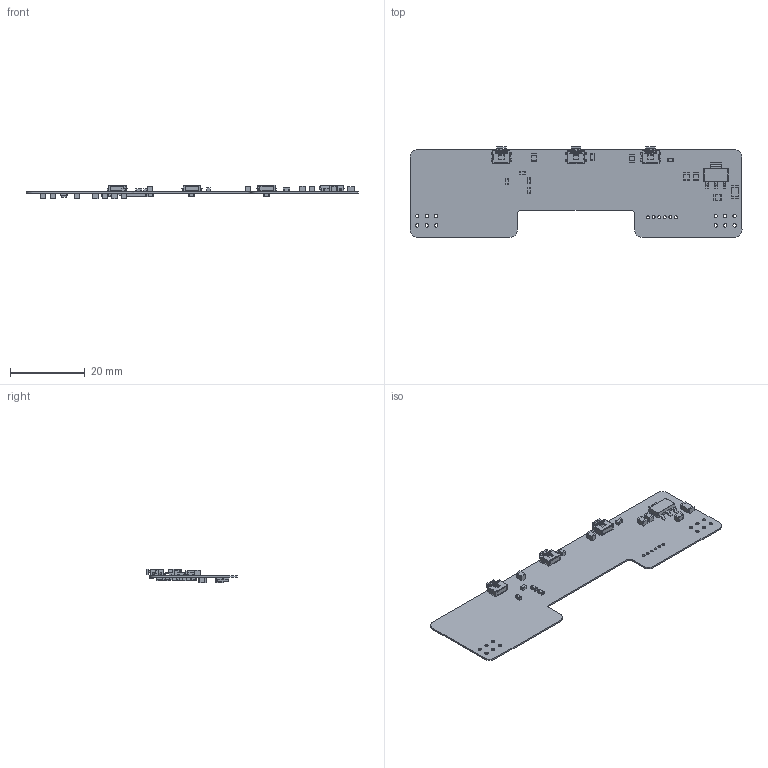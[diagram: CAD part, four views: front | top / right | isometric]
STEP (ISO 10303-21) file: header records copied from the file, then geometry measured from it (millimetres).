
FILE_DESCRIPTION(('Open CASCADE Model'),'2;1');
FILE_NAME('Open CASCADE Shape Model','2018-12-25T10:22:59',('Author'),( 'Open CASCADE'),'Open CASCADE STEP processor 6.5','Open CASCADE 6.5' ,'Unknown');
FILE_SCHEMA(('AUTOMOTIVE_DESIGN { 1 0 10303 214 1 1 1 1 }'));
Length unit declared in the file: millimetre
Products named in the file (73): PCB; Board; U3; SW3DPS-SOT-223-DEFAULT; F2; 670418976; Extruded; 670418848; C25; 670419232; 670419104; X1; 670421536; U1; User_Library-QFN48; R12; 670418720; 670418592; R6; LED2; APA1606; L3; L2; L1; C27; 670419488; 670419360; C26; C13; User_Library-Chip_Capacitor_0603; C12; C11; C10; C9; C8; C7; C6; C5; C4; C3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
Assembly tree (136 placements, depth 4):
  PCB
    Board
    U3
      SW3DPS-SOT-223-DEFAULT
    F2
      670418976  x2
        Extruded
      670418848
        Extruded
    C25
      670419232  x2
        Extruded
      670419104
        Extruded
    X1
      670421536
        Extruded
    U1
      User_Library-QFN48
    R12
      670418720  x2
        Extruded
      670418592
        Extruded
    R6
      670418720  x2
        Extruded
      670418592
        Extruded
    LED2
      APA1606
    L3
      670418720  x2
        Extruded
      670418592
        Extruded
    L2
      670418720  x2
        Extruded
      670418592
        Extruded
    L1
      670418720  x2
        Extruded
      670418592
        Extruded
    C27
      670419488  x2
        Extruded
      670419360
        Extruded
    C26
      670419488  x2
        Extruded
      670419360
        Extruded
    C13
      User_Library-Chip_Capacitor_0603
    C12
      User_Library-Chip_Capacitor_0603
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Bounding box: 89.02 x 24.3 x 3.54 mm (x, y, z)
Volume: 1011.6 mm3; surface area: 4942.8 mm2
Topology: 91 solids, 91 shells, 3253 faces, 8264 edges, 5234 vertices
Faces by surface type: plane 2223, bspline 483, cylinder 439, sphere 96, cone 12
Full cylindrical faces by diameter (mm): 0.8 x6, 0.9 x12
Entity records: 106354 total; most frequent: CARTESIAN_POINT 32777, DIRECTION 11248, LINE 7950, VECTOR 7950, ORIENTED_EDGE 6864, PCURVE 6864, DEFINITIONAL_REPRESENTATION 6864, EDGE_CURVE 3432
